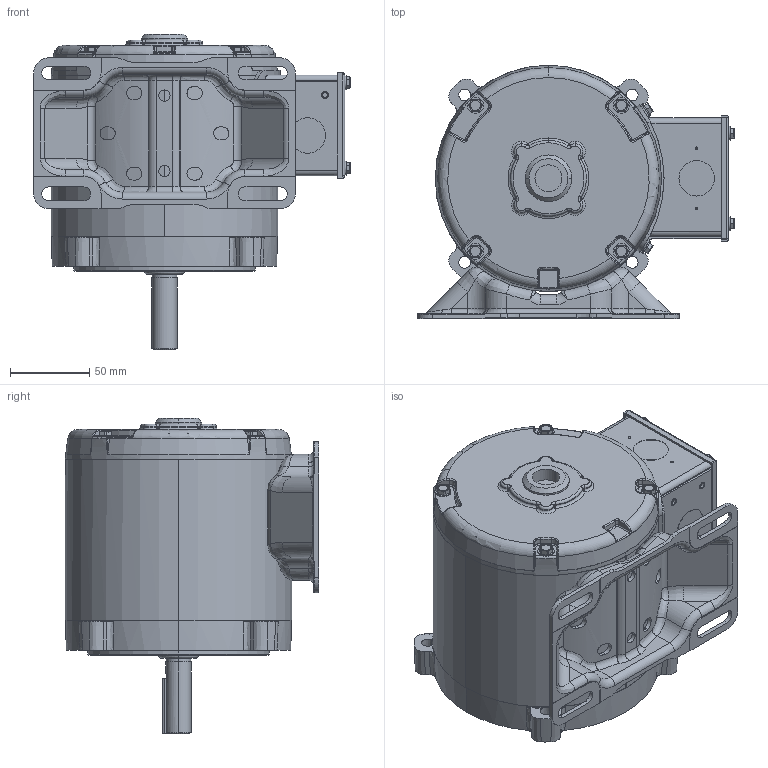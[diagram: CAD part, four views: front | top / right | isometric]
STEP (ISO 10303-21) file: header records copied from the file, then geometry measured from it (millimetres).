
FILE_DESCRIPTION (( 'STEP AP203' ), '1' );
FILE_NAME ('614-0004-001_RevE.STEP', '2018-12-10T17:19:01', ( 'RBC' ), ( 'RBC' ), 'SwSTEP 2.0', 'SolidWorks 2015', '' );
FILE_SCHEMA (( 'CONFIG_CONTROL_DESIGN' ));
Length unit declared in the file: inch
Products named in the file (1): 614-0004-001_RevE
Bounding box: 199.87 x 159.76 x 199.07 mm (x, y, z)
Volume: 465484 mm3; surface area: 346330.7 mm2
Topology: 25 solids, 25 shells, 4192 faces, 9876 edges, 5685 vertices
Faces by surface type: plane 1817, bspline 797, cylinder 579, torus 475, cone 357, sphere 167
Entity records: 144945 total; most frequent: CARTESIAN_POINT 54150, ORIENTED_EDGE 19468, DIRECTION 18601, EDGE_CURVE 9734, AXIS2_PLACEMENT_3D 7469, VERTEX_POINT 5685, EDGE_LOOP 4375, FACE_OUTER_BOUND 4192
